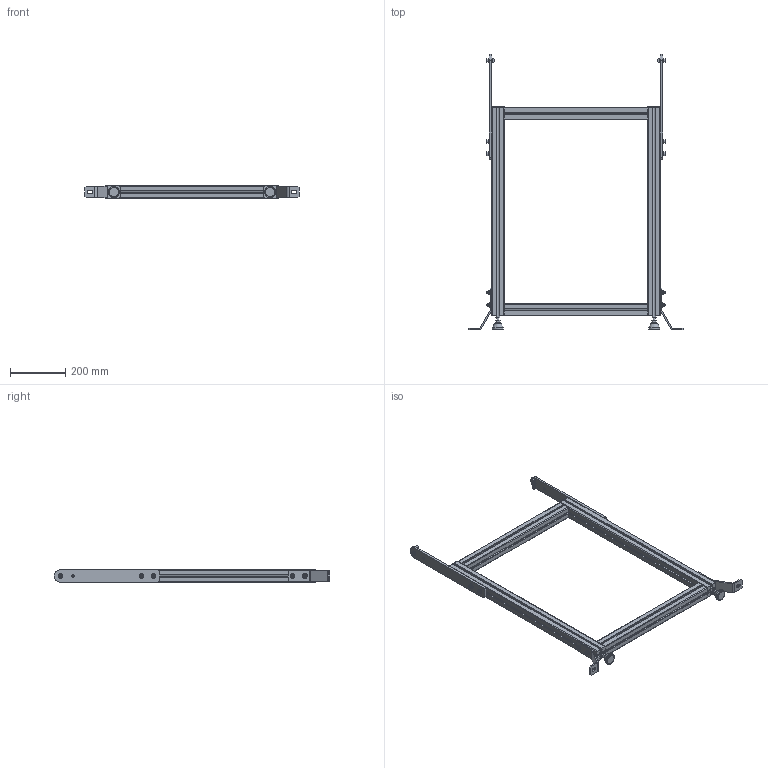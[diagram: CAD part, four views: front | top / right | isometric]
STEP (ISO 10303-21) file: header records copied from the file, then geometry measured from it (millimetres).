
FILE_DESCRIPTION (( 'STEP AP214' ), '1' );
FILE_NAME ('983-008-600.STEP', '2020-11-23T08:34:27', ( '' ), ( '' ), 'SwSTEP 2.0', 'SolidWorks 2020', '' );
FILE_SCHEMA (( 'AUTOMOTIVE_DESIGN' ));
Length unit declared in the file: millimetre
Products named in the file (15): 910-100; EMBOUT_915-010; 983-007; CHC M8X20 + RP8; CHASSIS JAMBAGE TB52 600_D‚faut[Brut d''usinage]; 935-055; 905-020; 982-017; CHC THE_910-052H; 905-021; 910-002_910-235; 983-008-600; RONDELLE_910-111; 935-016; 935-055SV
Assembly tree (22 placements, depth 4):
  983-008-600
    CHASSIS JAMBAGE TB52 600_D‚faut[Brut d''usinage]
    935-055  x2
      935-055SV
      910-100
      910-002_910-235
    EMBOUT_915-010  x2
    983-007  x2
      CHC M8X20 + RP8
        CHC THE_910-052H
        RONDELLE_910-111
      905-020
      905-021
      982-017
    935-016  x2
Bounding box: 776 x 996.5 x 45 mm (x, y, z)
Volume: 3690948.8 mm3; surface area: 1072170.6 mm2
Topology: 36 solids, 36 shells, 784 faces, 1912 edges, 1216 vertices
Faces by surface type: plane 530, cylinder 160, cone 72, torus 12, sphere 8, bspline 2
Full cylindrical faces by diameter (mm): 6 x6, 6.8 x10, 7.3 x4, 7.98 x6, 8 x14, 8.4 x6, 8.5 x8, 9 x4, 13 x6, 16 x6, 17 x4, 34 x2, 40 x2
Entity records: 11805 total; most frequent: CARTESIAN_POINT 2065, DIRECTION 1858, ORIENTED_EDGE 1828, EDGE_CURVE 914, VECTOR 732, LINE 732, VERTEX_POINT 618, AXIS2_PLACEMENT_3D 563
